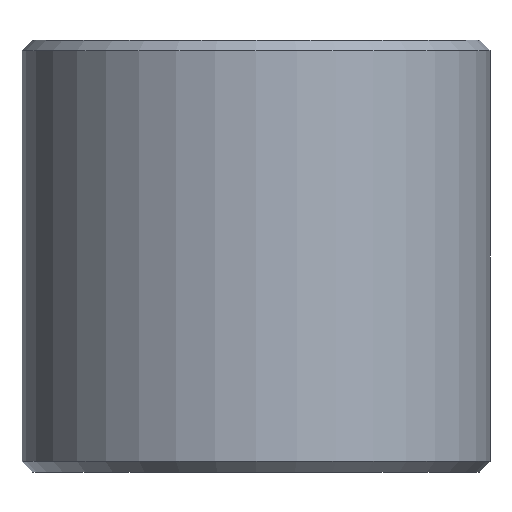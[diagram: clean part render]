
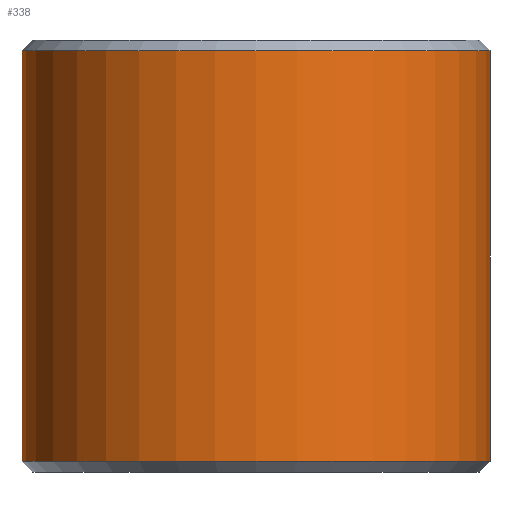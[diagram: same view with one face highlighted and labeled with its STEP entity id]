
A CAD part, front view. The second image highlights one B-rep face of the part: STEP entity #338.
In plain terms, the highlighted cylindrical face has radius 13 mm (diameter 26 mm), a partial arc.
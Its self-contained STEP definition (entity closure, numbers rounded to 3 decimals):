
#9 = DIRECTION ( 'NONE',  ( 0., 0., -1. ) ) ;
#33 = VECTOR ( 'NONE', #9, 1000. ) ;
#34 = EDGE_CURVE ( 'NONE', #185, #147, #80, .T. ) ;
#37 = CARTESIAN_POINT ( 'NONE',  ( -13., 0., -11.4 ) ) ;
#42 = CARTESIAN_POINT ( 'NONE',  ( -13., 0., 12. ) ) ;
#64 = AXIS2_PLACEMENT_3D ( 'NONE', #306, #207, #379 ) ;
#70 = CIRCLE ( 'NONE', #64, 13. ) ;
#72 = FACE_OUTER_BOUND ( 'NONE', #361, .T. ) ;
#80 = LINE ( 'NONE', #42, #33 ) ;
#97 = CIRCLE ( 'NONE', #337, 13. ) ;
#102 = CARTESIAN_POINT ( 'NONE',  ( 13., 0., -11.4 ) ) ;
#108 = ORIENTED_EDGE ( 'NONE', *, *, #209, .F. ) ;
#137 = DIRECTION ( 'NONE',  ( 1., 0., 0. ) ) ;
#139 = DIRECTION ( 'NONE',  ( 0., 0., -1. ) ) ;
#143 = ORIENTED_EDGE ( 'NONE', *, *, #307, .T. ) ;
#147 = VERTEX_POINT ( 'NONE', #37 ) ;
#155 = AXIS2_PLACEMENT_3D ( 'NONE', #342, #139, #414 ) ;
#185 = VERTEX_POINT ( 'NONE', #398 ) ;
#202 = DIRECTION ( 'NONE',  ( 0., 0., -1. ) ) ;
#207 = DIRECTION ( 'NONE',  ( 0., 0., -1. ) ) ;
#209 = EDGE_CURVE ( 'NONE', #279, #258, #223, .T. ) ;
#223 = LINE ( 'NONE', #265, #305 ) ;
#225 = ORIENTED_EDGE ( 'NONE', *, *, #445, .T. ) ;
#258 = VERTEX_POINT ( 'NONE', #102 ) ;
#265 = CARTESIAN_POINT ( 'NONE',  ( 13., 0., 12. ) ) ;
#279 = VERTEX_POINT ( 'NONE', #297 ) ;
#297 = CARTESIAN_POINT ( 'NONE',  ( 13., 0., 11.4 ) ) ;
#305 = VECTOR ( 'NONE', #202, 1000. ) ;
#306 = CARTESIAN_POINT ( 'NONE',  ( 0., 0., 11.4 ) ) ;
#307 = EDGE_CURVE ( 'NONE', #147, #258, #97, .T. ) ;
#327 = ORIENTED_EDGE ( 'NONE', *, *, #34, .T. ) ;
#329 = DIRECTION ( 'NONE',  ( 0., 0., 1. ) ) ;
#337 = AXIS2_PLACEMENT_3D ( 'NONE', #447, #329, #137 ) ;
#338 = ADVANCED_FACE ( 'NONE', ( #72 ), #377, .T. ) ;
#342 = CARTESIAN_POINT ( 'NONE',  ( 0., 0., 12. ) ) ;
#361 = EDGE_LOOP ( 'NONE', ( #108, #225, #327, #143 ) ) ;
#377 = CYLINDRICAL_SURFACE ( 'NONE', #155, 13. ) ;
#379 = DIRECTION ( 'NONE',  ( 1., 0., 0. ) ) ;
#398 = CARTESIAN_POINT ( 'NONE',  ( -13., 0., 11.4 ) ) ;
#414 = DIRECTION ( 'NONE',  ( -1., 0., 0. ) ) ;
#445 = EDGE_CURVE ( 'NONE', #279, #185, #70, .T. ) ;
#447 = CARTESIAN_POINT ( 'NONE',  ( 0., 0., -11.4 ) ) ;
